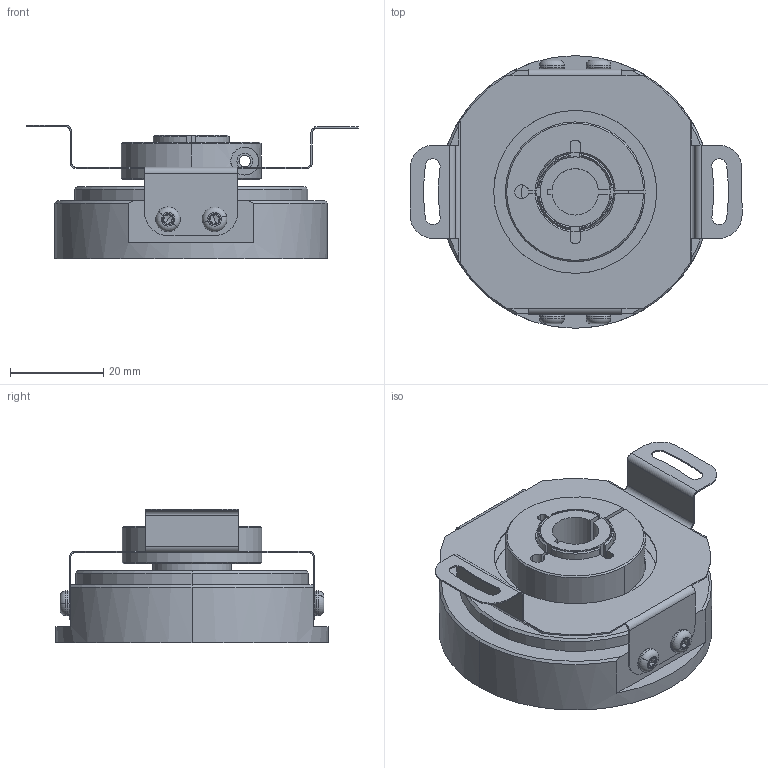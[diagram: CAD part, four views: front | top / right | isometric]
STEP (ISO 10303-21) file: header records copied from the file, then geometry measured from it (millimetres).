
FILE_DESCRIPTION (( 'STEP AP203' ), '1' );
FILE_NAME ('MCD-H10S-Q5B-N.STEP', '2013-04-12T13:40:15', ( '' ), ( '' ), 'SwSTEP 2.0', 'SolidWorks 2006104', '' );
FILE_SCHEMA (( 'CONFIG_CONTROL_DESIGN' ));
Length unit declared in the file: millimetre
Products named in the file (1): MCD-H10S-Q5B-N
Bounding box: 71.24 x 58.5 x 28.73 mm (x, y, z)
Volume: 34556.9 mm3; surface area: 22326.4 mm2
Topology: 8 solids, 8 shells, 464 faces, 1187 edges, 755 vertices
Faces by surface type: cylinder 161, plane 144, cone 115, torus 40, bspline 4
Entity records: 15456 total; most frequent: CARTESIAN_POINT 3920, DIRECTION 2534, ORIENTED_EDGE 2358, EDGE_CURVE 1179, AXIS2_PLACEMENT_3D 1058, VERTEX_POINT 755, CIRCLE 597, EDGE_LOOP 516
